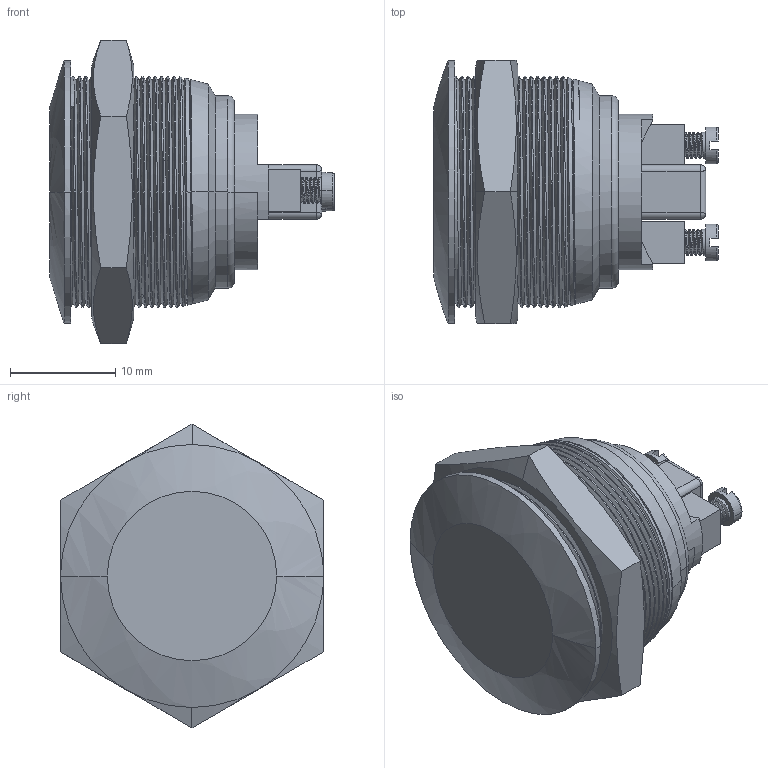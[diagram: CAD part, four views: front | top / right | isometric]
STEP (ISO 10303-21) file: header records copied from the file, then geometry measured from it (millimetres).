
FILE_DESCRIPTION((''),'2;1');
FILE_NAME('AV031003C910','2014-12-22T',('brevel'),(''),'PRO/ENGINEER BY PARAMETRIC TECHNOLOGY CORPORATION, 2013410','PRO/ENGINEER BY PARAMETRIC TECHNOLOGY CORPORATION, 2013410','');
FILE_SCHEMA(('CONFIG_CONTROL_DESIGN'));
Length unit declared in the file: millimetre
Products named in the file (1): AV031003C910
Bounding box: 27.08 x 25 x 28.87 mm (x, y, z)
Surface area: 4779.8 mm2 (no closed solid volume)
Topology: 0 solids, 9 shells, 162 faces, 486 edges, 332 vertices
Faces by surface type: plane 60, cylinder 60, bspline 22, cone 12, torus 6, sphere 2
Entity records: 17239 total; most frequent: CARTESIAN_POINT 13258, ORIENTED_EDGE 898, DIRECTION 659, EDGE_CURVE 484, VERTEX_POINT 332, AXIS2_PLACEMENT_3D 225, VECTOR 209, LINE 209
